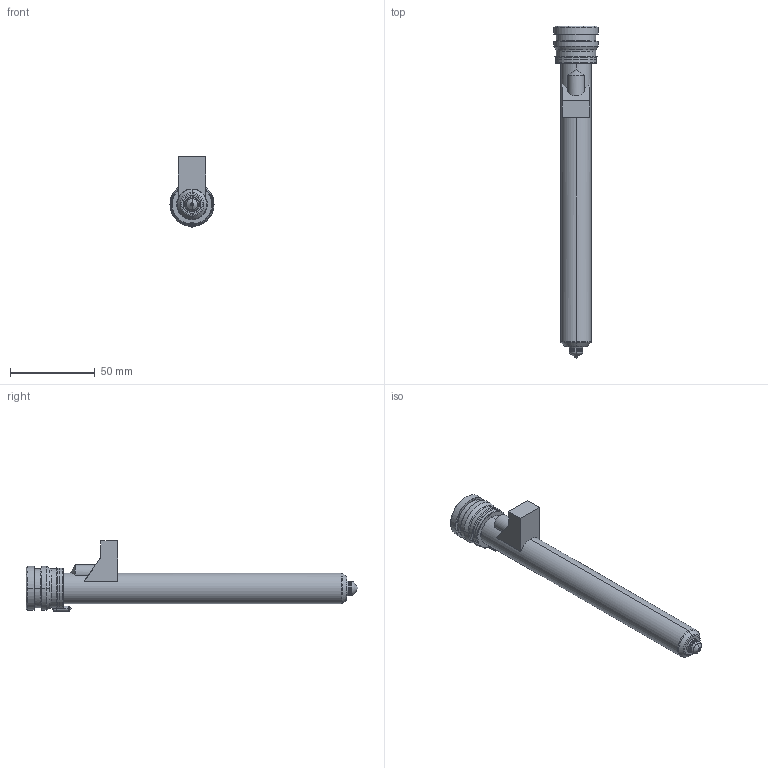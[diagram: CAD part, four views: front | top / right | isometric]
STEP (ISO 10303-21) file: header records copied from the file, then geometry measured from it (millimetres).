
FILE_DESCRIPTION((''),'2;1');
FILE_NAME('MPN-08-24-TX8-176-M','2026-02-05T13:26:51',('UPTIO'),('Thermoplay S.p.A.'),'CREO PARAMETRIC BY PTC INC, 2023494','CREO PARAMETRIC BY PTC INC, 2023494','');
FILE_SCHEMA(('CONFIG_CONTROL_DESIGN','SHAPE_APPEARANCE_LAYERS_GROUPS'));
Length unit declared in the file: millimetre
Products named in the file (1): MPN-08-24-TX8-176-M
Bounding box: 26 x 195.5 x 41.5 mm (x, y, z)
Volume: 36470.9 mm3; surface area: 48840.3 mm2
Topology: 2 solids, 3 shells, 532 faces, 1392 edges, 855 vertices
Faces by surface type: cylinder 174, plane 144, bspline 77, torus 62, cone 58, sphere 11, extrusion 6
Entity records: 28032 total; most frequent: CARTESIAN_POINT 12408, ORIENTED_EDGE 2762, DIRECTION 2491, EDGE_CURVE 1381, AXIS2_PLACEMENT_3D 974, VERTEX_POINT 855, EDGE_LOOP 562, VECTOR 543
